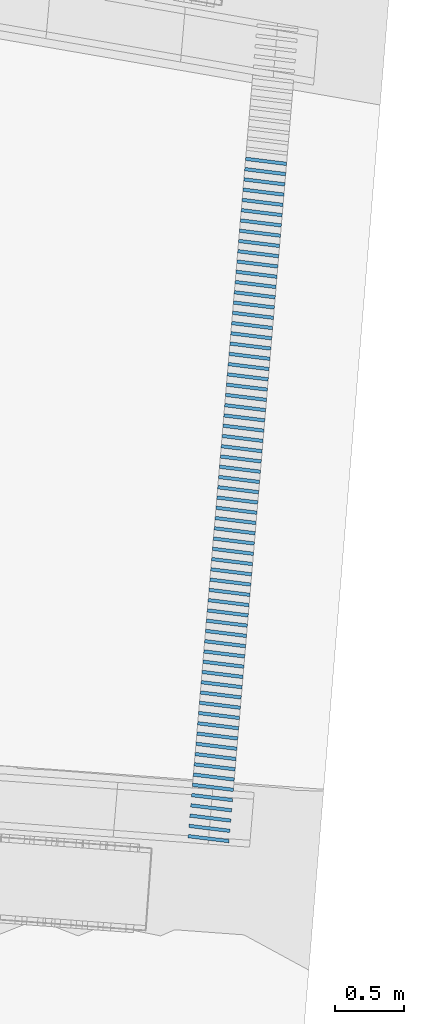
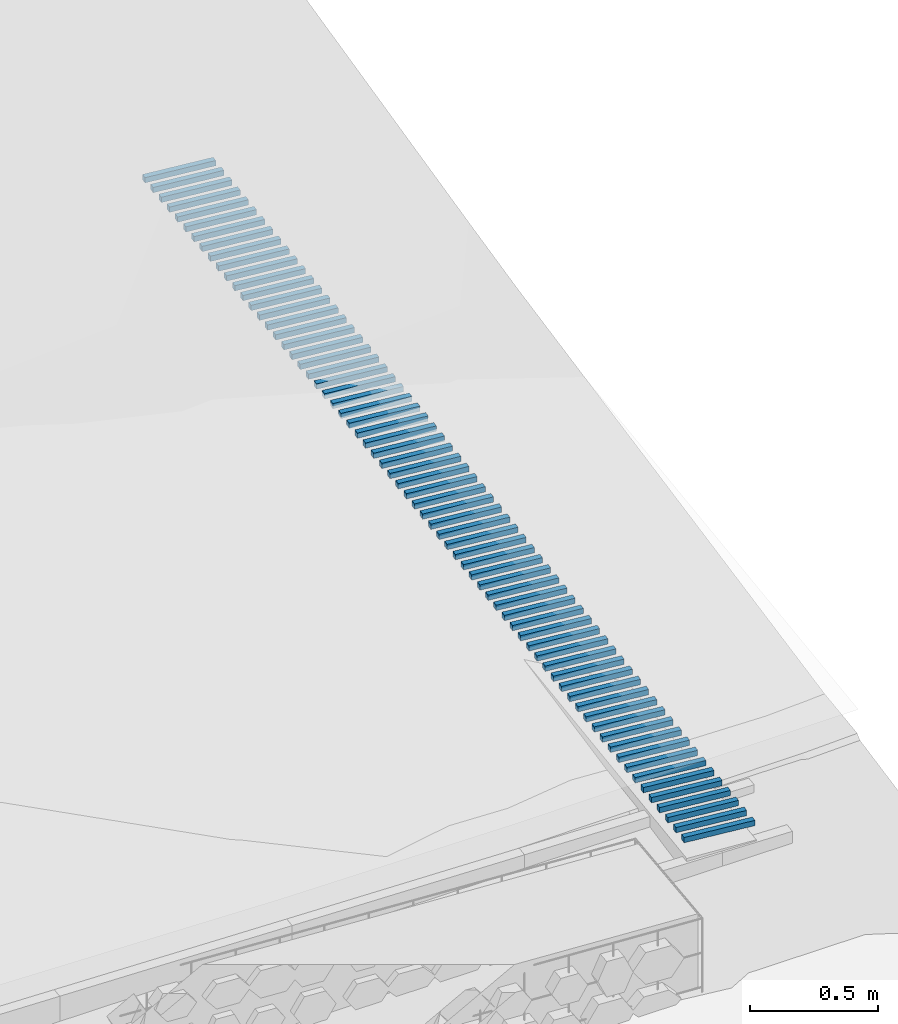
# Not in any storey, part 4 of 45: 67 members.
"""IFC4 model written with IfcOpenShell, lengths in metres."""

from ifc_helpers import new_model, si_unit, direction, frame, origin_with_axes, place, context, subcontext, project, spatial, rectangle, extrude, material, material_profile, profile_set, profile_usage, type_object, element, save


model = new_model("IFC4")

# Units and contexts
model_context = context("Model", 3, precision=1e-05, world=origin_with_axes(), true_north=direction((0.0, 1.0)))
body_context = subcontext(model_context, "Body", "Model", "MODEL_VIEW")
ifc_project = project(units=[si_unit("VOLUMEUNIT", "CUBIC_METRE"), si_unit("LENGTHUNIT", "METRE"), si_unit("AREAUNIT", "SQUARE_METRE")], contexts=[model_context])

# Site
site_placement = place(None, origin_with_axes())
site = spatial("IfcSite", under=ifc_project, at=site_placement, Name="Lares · Rua das Mercês · artigo 4771")

# Members
ifc_material = material(Name="Aço galvanizado / Stahl verzinkt", Category="steel")
ifc_material_profile = material_profile(ifc_material, rectangle(XDim=0.025, YDim=0.025))
ifc_profile_set = profile_set([ifc_material_profile], Name="R0.025")
ifc_profile_usage_1 = profile_usage(ifc_profile_set)
member_type = type_object("IfcMemberType", Name="R0.025 / galvanized", PredefinedType="NOTDEFINED", material=ifc_profile_set)
member_1_placement = place(site_placement, frame((82.2941833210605, 0.167332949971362, 16.2224827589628), z_axis=(0.992517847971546, -0.122099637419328, 0.0), x_axis=(-0.122099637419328, -0.992517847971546, 0.0)))
element("IfcMember", 1, at=member_1_placement, inside=site, type_object=member_type, material=ifc_profile_usage_1, Name="Interceção · grelha rua", context=body_context, shape_type="SweptSolid", body=[
    extrude(rectangle(XDim=0.025, YDim=0.025), origin_with_axes(), (0.0, 0.0, 1.0), 0.299999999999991),
])
ifc_profile_usage_2 = profile_usage(ifc_profile_set)
member_2_placement = place(site_placement, frame((82.3005272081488, 0.242064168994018, 16.2224827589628), z_axis=(0.992517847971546, -0.122099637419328, 0.0), x_axis=(-0.122099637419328, -0.992517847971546, 0.0)))
element("IfcMember", 2, at=member_2_placement, inside=site, type_object=member_type, material=ifc_profile_usage_2, Name="Interceção · grelha rua", context=body_context, shape_type="SweptSolid", body=[
    extrude(rectangle(XDim=0.025, YDim=0.025), origin_with_axes(), (0.0, 0.0, 1.0), 0.299999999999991),
])
ifc_profile_usage_3 = profile_usage(ifc_profile_set)
member_3_placement = place(site_placement, frame((82.306871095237, 0.31679538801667, 16.2224827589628), z_axis=(0.992517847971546, -0.122099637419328, 0.0), x_axis=(-0.122099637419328, -0.992517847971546, 0.0)))
element("IfcMember", 3, at=member_3_placement, inside=site, type_object=member_type, material=ifc_profile_usage_3, Name="Interceção · grelha rua", context=body_context, shape_type="SweptSolid", body=[
    extrude(rectangle(XDim=0.025, YDim=0.025), origin_with_axes(), (0.0, 0.0, 1.0), 0.299999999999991),
])
ifc_profile_usage_4 = profile_usage(ifc_profile_set)
member_4_placement = place(site_placement, frame((82.3132149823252, 0.391526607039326, 16.2224827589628), z_axis=(0.992517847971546, -0.122099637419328, 0.0), x_axis=(-0.122099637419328, -0.992517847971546, 0.0)))
element("IfcMember", 4, at=member_4_placement, inside=site, type_object=member_type, material=ifc_profile_usage_4, Name="Interceção · grelha rua", context=body_context, shape_type="SweptSolid", body=[
    extrude(rectangle(XDim=0.025, YDim=0.025), origin_with_axes(), (0.0, 0.0, 1.0), 0.299999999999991),
])
ifc_profile_usage_5 = profile_usage(ifc_profile_set)
member_5_placement = place(site_placement, frame((82.3195588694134, 0.466257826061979, 16.2224827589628), z_axis=(0.992517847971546, -0.122099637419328, 0.0), x_axis=(-0.122099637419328, -0.992517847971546, 0.0)))
element("IfcMember", 5, at=member_5_placement, inside=site, type_object=member_type, material=ifc_profile_usage_5, Name="Interceção · grelha rua", context=body_context, shape_type="SweptSolid", body=[
    extrude(rectangle(XDim=0.025, YDim=0.025), origin_with_axes(), (0.0, 0.0, 1.0), 0.299999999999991),
])
ifc_profile_usage_6 = profile_usage(ifc_profile_set)
member_6_placement = place(site_placement, frame((82.3259027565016, 0.540989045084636, 16.2224827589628), z_axis=(0.992517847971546, -0.122099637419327, 0.0), x_axis=(-0.122099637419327, -0.992517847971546, 0.0)))
element("IfcMember", 6, at=member_6_placement, inside=site, type_object=member_type, material=ifc_profile_usage_6, Name="Interceção · grelha rua", context=body_context, shape_type="SweptSolid", body=[
    extrude(rectangle(XDim=0.025, YDim=0.025), origin_with_axes(), (0.0, 0.0, 1.0), 0.299999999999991),
])
ifc_profile_usage_7 = profile_usage(ifc_profile_set)
member_7_placement = place(site_placement, frame((82.3322466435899, 0.615720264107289, 16.2227827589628), z_axis=(0.992517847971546, -0.122099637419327, 0.0), x_axis=(-0.122099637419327, -0.992517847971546, 0.0)))
element("IfcMember", 7, at=member_7_placement, inside=site, type_object=member_type, material=ifc_profile_usage_7, Name="Interceção · grelha rua", context=body_context, shape_type="SweptSolid", body=[
    extrude(rectangle(XDim=0.025, YDim=0.025), origin_with_axes(), (0.0, 0.0, 1.0), 0.299999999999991),
])
ifc_profile_usage_8 = profile_usage(ifc_profile_set)
member_8_placement = place(site_placement, frame((82.3385905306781, 0.690451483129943, 16.2235327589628), z_axis=(0.992517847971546, -0.122099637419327, 0.0), x_axis=(-0.122099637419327, -0.992517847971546, 0.0)))
element("IfcMember", 8, at=member_8_placement, inside=site, type_object=member_type, material=ifc_profile_usage_8, Name="Interceção · grelha rua", context=body_context, shape_type="SweptSolid", body=[
    extrude(rectangle(XDim=0.025, YDim=0.025), origin_with_axes(), (0.0, 0.0, 1.0), 0.299999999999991),
])
ifc_profile_usage_9 = profile_usage(ifc_profile_set)
member_9_placement = place(site_placement, frame((82.3449344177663, 0.765182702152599, 16.2242827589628), z_axis=(0.992517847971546, -0.122099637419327, 0.0), x_axis=(-0.122099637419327, -0.992517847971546, 0.0)))
element("IfcMember", 9, at=member_9_placement, inside=site, type_object=member_type, material=ifc_profile_usage_9, Name="Interceção · grelha rua", context=body_context, shape_type="SweptSolid", body=[
    extrude(rectangle(XDim=0.025, YDim=0.025), origin_with_axes(), (0.0, 0.0, 1.0), 0.299999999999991),
])
ifc_profile_usage_10 = profile_usage(ifc_profile_set)
member_10_placement = place(site_placement, frame((82.3512783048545, 0.839913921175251, 16.2250327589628), z_axis=(0.992517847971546, -0.122099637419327, 0.0), x_axis=(-0.122099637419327, -0.992517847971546, 0.0)))
element("IfcMember", 10, at=member_10_placement, inside=site, type_object=member_type, material=ifc_profile_usage_10, Name="Interceção · grelha rua", context=body_context, shape_type="SweptSolid", body=[
    extrude(rectangle(XDim=0.025, YDim=0.025), origin_with_axes(), (0.0, 0.0, 1.0), 0.299999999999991),
])
ifc_profile_usage_11 = profile_usage(ifc_profile_set)
member_11_placement = place(site_placement, frame((82.3576221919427, 0.914645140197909, 16.2257827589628), z_axis=(0.992517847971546, -0.122099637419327, 0.0), x_axis=(-0.122099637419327, -0.992517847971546, 0.0)))
element("IfcMember", 11, at=member_11_placement, inside=site, type_object=member_type, material=ifc_profile_usage_11, Name="Interceção · grelha rua", context=body_context, shape_type="SweptSolid", body=[
    extrude(rectangle(XDim=0.025, YDim=0.025), origin_with_axes(), (0.0, 0.0, 1.0), 0.299999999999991),
])
ifc_profile_usage_12 = profile_usage(ifc_profile_set)
member_12_placement = place(site_placement, frame((82.363966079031, 0.989376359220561, 16.2265327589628), z_axis=(0.992517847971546, -0.122099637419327, 0.0), x_axis=(-0.122099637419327, -0.992517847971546, 0.0)))
element("IfcMember", 12, at=member_12_placement, inside=site, type_object=member_type, material=ifc_profile_usage_12, Name="Interceção · grelha rua", context=body_context, shape_type="SweptSolid", body=[
    extrude(rectangle(XDim=0.025, YDim=0.025), origin_with_axes(), (0.0, 0.0, 1.0), 0.299999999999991),
])
ifc_profile_usage_13 = profile_usage(ifc_profile_set)
member_13_placement = place(site_placement, frame((82.3703099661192, 1.06410757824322, 16.2272827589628), z_axis=(0.992517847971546, -0.122099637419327, 0.0), x_axis=(-0.122099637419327, -0.992517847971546, 0.0)))
element("IfcMember", 13, at=member_13_placement, inside=site, type_object=member_type, material=ifc_profile_usage_13, Name="Interceção · grelha rua", context=body_context, shape_type="SweptSolid", body=[
    extrude(rectangle(XDim=0.025, YDim=0.025), origin_with_axes(), (0.0, 0.0, 1.0), 0.299999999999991),
])
ifc_profile_usage_14 = profile_usage(ifc_profile_set)
member_14_placement = place(site_placement, frame((82.3766538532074, 1.13883879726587, 16.2280327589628), z_axis=(0.992517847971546, -0.122099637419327, 0.0), x_axis=(-0.122099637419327, -0.992517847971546, 0.0)))
element("IfcMember", 14, at=member_14_placement, inside=site, type_object=member_type, material=ifc_profile_usage_14, Name="Interceção · grelha rua", context=body_context, shape_type="SweptSolid", body=[
    extrude(rectangle(XDim=0.025, YDim=0.025), origin_with_axes(), (0.0, 0.0, 1.0), 0.299999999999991),
])
ifc_profile_usage_15 = profile_usage(ifc_profile_set)
member_15_placement = place(site_placement, frame((82.3829977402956, 1.21357001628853, 16.2287827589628), z_axis=(0.992517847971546, -0.122099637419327, 0.0), x_axis=(-0.122099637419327, -0.992517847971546, 0.0)))
element("IfcMember", 15, at=member_15_placement, inside=site, type_object=member_type, material=ifc_profile_usage_15, Name="Interceção · grelha rua", context=body_context, shape_type="SweptSolid", body=[
    extrude(rectangle(XDim=0.025, YDim=0.025), origin_with_axes(), (0.0, 0.0, 1.0), 0.299999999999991),
])
ifc_profile_usage_16 = profile_usage(ifc_profile_set)
member_16_placement = place(site_placement, frame((82.3893416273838, 1.28830123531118, 16.2295327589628), z_axis=(0.992517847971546, -0.122099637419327, 0.0), x_axis=(-0.122099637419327, -0.992517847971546, 0.0)))
element("IfcMember", 16, at=member_16_placement, inside=site, type_object=member_type, material=ifc_profile_usage_16, Name="Interceção · grelha rua", context=body_context, shape_type="SweptSolid", body=[
    extrude(rectangle(XDim=0.025, YDim=0.025), origin_with_axes(), (0.0, 0.0, 1.0), 0.299999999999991),
])
ifc_profile_usage_17 = profile_usage(ifc_profile_set)
member_17_placement = place(site_placement, frame((82.395685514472, 1.36303245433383, 16.2302827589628), z_axis=(0.992517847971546, -0.122099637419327, 0.0), x_axis=(-0.122099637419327, -0.992517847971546, 0.0)))
element("IfcMember", 17, at=member_17_placement, inside=site, type_object=member_type, material=ifc_profile_usage_17, Name="Interceção · grelha rua", context=body_context, shape_type="SweptSolid", body=[
    extrude(rectangle(XDim=0.025, YDim=0.025), origin_with_axes(), (0.0, 0.0, 1.0), 0.299999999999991),
])
ifc_profile_usage_18 = profile_usage(ifc_profile_set)
member_18_placement = place(site_placement, frame((82.4020294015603, 1.43776367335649, 16.2310327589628), z_axis=(0.992517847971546, -0.122099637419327, 0.0), x_axis=(-0.122099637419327, -0.992517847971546, 0.0)))
element("IfcMember", 18, at=member_18_placement, inside=site, type_object=member_type, material=ifc_profile_usage_18, Name="Interceção · grelha rua", context=body_context, shape_type="SweptSolid", body=[
    extrude(rectangle(XDim=0.025, YDim=0.025), origin_with_axes(), (0.0, 0.0, 1.0), 0.299999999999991),
])
ifc_profile_usage_19 = profile_usage(ifc_profile_set)
member_19_placement = place(site_placement, frame((82.4083732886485, 1.51249489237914, 16.2317827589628), z_axis=(0.992517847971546, -0.122099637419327, 0.0), x_axis=(-0.122099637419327, -0.992517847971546, 0.0)))
element("IfcMember", 19, at=member_19_placement, inside=site, type_object=member_type, material=ifc_profile_usage_19, Name="Interceção · grelha rua", context=body_context, shape_type="SweptSolid", body=[
    extrude(rectangle(XDim=0.025, YDim=0.025), origin_with_axes(), (0.0, 0.0, 1.0), 0.299999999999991),
])
ifc_profile_usage_20 = profile_usage(ifc_profile_set)
member_20_placement = place(site_placement, frame((82.4147171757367, 1.5872261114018, 16.2325327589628), z_axis=(0.992517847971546, -0.122099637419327, 0.0), x_axis=(-0.122099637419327, -0.992517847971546, 0.0)))
element("IfcMember", 20, at=member_20_placement, inside=site, type_object=member_type, material=ifc_profile_usage_20, Name="Interceção · grelha rua", context=body_context, shape_type="SweptSolid", body=[
    extrude(rectangle(XDim=0.025, YDim=0.025), origin_with_axes(), (0.0, 0.0, 1.0), 0.299999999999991),
])
ifc_profile_usage_21 = profile_usage(ifc_profile_set)
member_21_placement = place(site_placement, frame((82.4210610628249, 1.66195733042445, 16.2332827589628), z_axis=(0.992517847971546, -0.122099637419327, 0.0), x_axis=(-0.122099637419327, -0.992517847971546, 0.0)))
element("IfcMember", 21, at=member_21_placement, inside=site, type_object=member_type, material=ifc_profile_usage_21, Name="Interceção · grelha rua", context=body_context, shape_type="SweptSolid", body=[
    extrude(rectangle(XDim=0.025, YDim=0.025), origin_with_axes(), (0.0, 0.0, 1.0), 0.299999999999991),
])
ifc_profile_usage_22 = profile_usage(ifc_profile_set)
member_22_placement = place(site_placement, frame((82.4274049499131, 1.73668854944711, 16.2340327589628), z_axis=(0.992517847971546, -0.122099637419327, 0.0), x_axis=(-0.122099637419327, -0.992517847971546, 0.0)))
element("IfcMember", 22, at=member_22_placement, inside=site, type_object=member_type, material=ifc_profile_usage_22, Name="Interceção · grelha rua", context=body_context, shape_type="SweptSolid", body=[
    extrude(rectangle(XDim=0.025, YDim=0.025), origin_with_axes(), (0.0, 0.0, 1.0), 0.299999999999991),
])
ifc_profile_usage_23 = profile_usage(ifc_profile_set)
member_23_placement = place(site_placement, frame((82.4337488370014, 1.81141976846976, 16.2347827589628), z_axis=(0.992517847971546, -0.122099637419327, 0.0), x_axis=(-0.122099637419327, -0.992517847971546, 0.0)))
element("IfcMember", 23, at=member_23_placement, inside=site, type_object=member_type, material=ifc_profile_usage_23, Name="Interceção · grelha rua", context=body_context, shape_type="SweptSolid", body=[
    extrude(rectangle(XDim=0.025, YDim=0.025), origin_with_axes(), (0.0, 0.0, 1.0), 0.299999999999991),
])
ifc_profile_usage_24 = profile_usage(ifc_profile_set)
member_24_placement = place(site_placement, frame((82.4400927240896, 1.88615098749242, 16.2355327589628), z_axis=(0.992517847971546, -0.122099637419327, 0.0), x_axis=(-0.122099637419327, -0.992517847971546, 0.0)))
element("IfcMember", 24, at=member_24_placement, inside=site, type_object=member_type, material=ifc_profile_usage_24, Name="Interceção · grelha rua", context=body_context, shape_type="SweptSolid", body=[
    extrude(rectangle(XDim=0.025, YDim=0.025), origin_with_axes(), (0.0, 0.0, 1.0), 0.299999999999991),
])
ifc_profile_usage_25 = profile_usage(ifc_profile_set)
member_25_placement = place(site_placement, frame((82.4464366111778, 1.96088220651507, 16.2362827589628), z_axis=(0.992517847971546, -0.122099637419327, 0.0), x_axis=(-0.122099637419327, -0.992517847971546, 0.0)))
element("IfcMember", 25, at=member_25_placement, inside=site, type_object=member_type, material=ifc_profile_usage_25, Name="Interceção · grelha rua", context=body_context, shape_type="SweptSolid", body=[
    extrude(rectangle(XDim=0.025, YDim=0.025), origin_with_axes(), (0.0, 0.0, 1.0), 0.299999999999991),
])
ifc_profile_usage_26 = profile_usage(ifc_profile_set)
member_26_placement = place(site_placement, frame((82.452780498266, 2.03561342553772, 16.2370327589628), z_axis=(0.992517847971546, -0.122099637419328, 0.0), x_axis=(-0.122099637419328, -0.992517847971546, 0.0)))
element("IfcMember", 26, at=member_26_placement, inside=site, type_object=member_type, material=ifc_profile_usage_26, Name="Interceção · grelha rua", context=body_context, shape_type="SweptSolid", body=[
    extrude(rectangle(XDim=0.025, YDim=0.025), origin_with_axes(), (0.0, 0.0, 1.0), 0.299999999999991),
])
ifc_profile_usage_27 = profile_usage(ifc_profile_set)
member_27_placement = place(site_placement, frame((82.4591243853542, 2.11034464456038, 16.2377827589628), z_axis=(0.992517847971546, -0.122099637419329, 0.0), x_axis=(-0.122099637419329, -0.992517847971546, 0.0)))
element("IfcMember", 27, at=member_27_placement, inside=site, type_object=member_type, material=ifc_profile_usage_27, Name="Interceção · grelha rua", context=body_context, shape_type="SweptSolid", body=[
    extrude(rectangle(XDim=0.025, YDim=0.025), origin_with_axes(), (0.0, 0.0, 1.0), 0.299999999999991),
])
ifc_profile_usage_28 = profile_usage(ifc_profile_set)
member_28_placement = place(site_placement, frame((82.4654682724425, 2.18507586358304, 16.2385327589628), z_axis=(0.992517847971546, -0.122099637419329, 0.0), x_axis=(-0.122099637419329, -0.992517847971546, 0.0)))
element("IfcMember", 28, at=member_28_placement, inside=site, type_object=member_type, material=ifc_profile_usage_28, Name="Interceção · grelha rua", context=body_context, shape_type="SweptSolid", body=[
    extrude(rectangle(XDim=0.025, YDim=0.025), origin_with_axes(), (0.0, 0.0, 1.0), 0.299999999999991),
])
ifc_profile_usage_29 = profile_usage(ifc_profile_set)
member_29_placement = place(site_placement, frame((82.4718121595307, 2.25980708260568, 16.2392827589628), z_axis=(0.992517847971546, -0.122099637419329, 0.0), x_axis=(-0.122099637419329, -0.992517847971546, 0.0)))
element("IfcMember", 29, at=member_29_placement, inside=site, type_object=member_type, material=ifc_profile_usage_29, Name="Interceção · grelha rua", context=body_context, shape_type="SweptSolid", body=[
    extrude(rectangle(XDim=0.025, YDim=0.025), origin_with_axes(), (0.0, 0.0, 1.0), 0.299999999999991),
])
ifc_profile_usage_30 = profile_usage(ifc_profile_set)
member_30_placement = place(site_placement, frame((82.4781560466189, 2.33453830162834, 16.2400327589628), z_axis=(0.992517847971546, -0.122099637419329, 0.0), x_axis=(-0.122099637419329, -0.992517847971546, 0.0)))
element("IfcMember", 30, at=member_30_placement, inside=site, type_object=member_type, material=ifc_profile_usage_30, Name="Interceção · grelha rua", context=body_context, shape_type="SweptSolid", body=[
    extrude(rectangle(XDim=0.025, YDim=0.025), origin_with_axes(), (0.0, 0.0, 1.0), 0.299999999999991),
])
ifc_profile_usage_31 = profile_usage(ifc_profile_set)
member_31_placement = place(site_placement, frame((82.4844999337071, 2.409269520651, 16.2407827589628), z_axis=(0.992517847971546, -0.122099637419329, 0.0), x_axis=(-0.122099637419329, -0.992517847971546, 0.0)))
element("IfcMember", 31, at=member_31_placement, inside=site, type_object=member_type, material=ifc_profile_usage_31, Name="Interceção · grelha rua", context=body_context, shape_type="SweptSolid", body=[
    extrude(rectangle(XDim=0.025, YDim=0.025), origin_with_axes(), (0.0, 0.0, 1.0), 0.299999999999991),
])
ifc_profile_usage_32 = profile_usage(ifc_profile_set)
member_32_placement = place(site_placement, frame((82.4908438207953, 2.48400073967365, 16.2415327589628), z_axis=(0.992517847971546, -0.122099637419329, 0.0), x_axis=(-0.122099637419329, -0.992517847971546, 0.0)))
element("IfcMember", 32, at=member_32_placement, inside=site, type_object=member_type, material=ifc_profile_usage_32, Name="Interceção · grelha rua", context=body_context, shape_type="SweptSolid", body=[
    extrude(rectangle(XDim=0.025, YDim=0.025), origin_with_axes(), (0.0, 0.0, 1.0), 0.299999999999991),
])
ifc_profile_usage_33 = profile_usage(ifc_profile_set)
member_33_placement = place(site_placement, frame((82.4971877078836, 2.55873195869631, 16.2422827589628), z_axis=(0.992517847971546, -0.122099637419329, 0.0), x_axis=(-0.122099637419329, -0.992517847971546, 0.0)))
element("IfcMember", 33, at=member_33_placement, inside=site, type_object=member_type, material=ifc_profile_usage_33, Name="Interceção · grelha rua", context=body_context, shape_type="SweptSolid", body=[
    extrude(rectangle(XDim=0.025, YDim=0.025), origin_with_axes(), (0.0, 0.0, 1.0), 0.299999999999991),
])
ifc_profile_usage_34 = profile_usage(ifc_profile_set)
member_34_placement = place(site_placement, frame((82.5035315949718, 2.63346317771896, 16.2430327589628), z_axis=(0.992517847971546, -0.122099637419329, 0.0), x_axis=(-0.122099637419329, -0.992517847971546, 0.0)))
element("IfcMember", 34, at=member_34_placement, inside=site, type_object=member_type, material=ifc_profile_usage_34, Name="Interceção · grelha rua", context=body_context, shape_type="SweptSolid", body=[
    extrude(rectangle(XDim=0.025, YDim=0.025), origin_with_axes(), (0.0, 0.0, 1.0), 0.299999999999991),
])
ifc_profile_usage_35 = profile_usage(ifc_profile_set)
member_35_placement = place(site_placement, frame((82.50987548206, 2.70819439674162, 16.2437827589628), z_axis=(0.992517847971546, -0.122099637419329, 0.0), x_axis=(-0.122099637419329, -0.992517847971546, 0.0)))
element("IfcMember", 35, at=member_35_placement, inside=site, type_object=member_type, material=ifc_profile_usage_35, Name="Interceção · grelha rua", context=body_context, shape_type="SweptSolid", body=[
    extrude(rectangle(XDim=0.025, YDim=0.025), origin_with_axes(), (0.0, 0.0, 1.0), 0.299999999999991),
])
ifc_profile_usage_36 = profile_usage(ifc_profile_set)
member_36_placement = place(site_placement, frame((82.5162193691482, 2.78292561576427, 16.2445327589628), z_axis=(0.992517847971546, -0.122099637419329, 0.0), x_axis=(-0.122099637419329, -0.992517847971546, 0.0)))
element("IfcMember", 36, at=member_36_placement, inside=site, type_object=member_type, material=ifc_profile_usage_36, Name="Interceção · grelha rua", context=body_context, shape_type="SweptSolid", body=[
    extrude(rectangle(XDim=0.025, YDim=0.025), origin_with_axes(), (0.0, 0.0, 1.0), 0.299999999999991),
])
ifc_profile_usage_37 = profile_usage(ifc_profile_set)
member_37_placement = place(site_placement, frame((82.5225632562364, 2.85765683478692, 16.2452827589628), z_axis=(0.992517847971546, -0.122099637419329, 0.0), x_axis=(-0.122099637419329, -0.992517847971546, 0.0)))
element("IfcMember", 37, at=member_37_placement, inside=site, type_object=member_type, material=ifc_profile_usage_37, Name="Interceção · grelha rua", context=body_context, shape_type="SweptSolid", body=[
    extrude(rectangle(XDim=0.025, YDim=0.025), origin_with_axes(), (0.0, 0.0, 1.0), 0.299999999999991),
])
ifc_profile_usage_38 = profile_usage(ifc_profile_set)
member_38_placement = place(site_placement, frame((82.5289071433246, 2.93238805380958, 16.2460327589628), z_axis=(0.992517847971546, -0.122099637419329, 0.0), x_axis=(-0.122099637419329, -0.992517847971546, 0.0)))
element("IfcMember", 38, at=member_38_placement, inside=site, type_object=member_type, material=ifc_profile_usage_38, Name="Interceção · grelha rua", context=body_context, shape_type="SweptSolid", body=[
    extrude(rectangle(XDim=0.025, YDim=0.025), origin_with_axes(), (0.0, 0.0, 1.0), 0.299999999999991),
])
ifc_profile_usage_39 = profile_usage(ifc_profile_set)
member_39_placement = place(site_placement, frame((82.5352510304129, 3.00711927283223, 16.2467827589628), z_axis=(0.992517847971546, -0.122099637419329, 0.0), x_axis=(-0.122099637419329, -0.992517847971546, 0.0)))
element("IfcMember", 39, at=member_39_placement, inside=site, type_object=member_type, material=ifc_profile_usage_39, Name="Interceção · grelha rua", context=body_context, shape_type="SweptSolid", body=[
    extrude(rectangle(XDim=0.025, YDim=0.025), origin_with_axes(), (0.0, 0.0, 1.0), 0.299999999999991),
])
ifc_profile_usage_40 = profile_usage(ifc_profile_set)
member_40_placement = place(site_placement, frame((82.5415949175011, 3.08185049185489, 16.2475327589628), z_axis=(0.992517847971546, -0.122099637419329, 0.0), x_axis=(-0.122099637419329, -0.992517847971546, 0.0)))
element("IfcMember", 40, at=member_40_placement, inside=site, type_object=member_type, material=ifc_profile_usage_40, Name="Interceção · grelha rua", context=body_context, shape_type="SweptSolid", body=[
    extrude(rectangle(XDim=0.025, YDim=0.025), origin_with_axes(), (0.0, 0.0, 1.0), 0.299999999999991),
])
ifc_profile_usage_41 = profile_usage(ifc_profile_set)
member_41_placement = place(site_placement, frame((82.5479388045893, 3.15658171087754, 16.2474680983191), z_axis=(0.992517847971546, -0.122099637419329, 0.0), x_axis=(-0.122099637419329, -0.992517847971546, 0.0)))
element("IfcMember", 41, at=member_41_placement, inside=site, type_object=member_type, material=ifc_profile_usage_41, Name="Interceção · grelha rua", context=body_context, shape_type="SweptSolid", body=[
    extrude(rectangle(XDim=0.025, YDim=0.025), origin_with_axes(), (0.0, 0.0, 1.0), 0.299999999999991),
])
ifc_profile_usage_42 = profile_usage(ifc_profile_set)
member_42_placement = place(site_placement, frame((82.5542826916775, 3.2313129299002, 16.2467180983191), z_axis=(0.992517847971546, -0.122099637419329, 0.0), x_axis=(-0.122099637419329, -0.992517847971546, 0.0)))
element("IfcMember", 42, at=member_42_placement, inside=site, type_object=member_type, material=ifc_profile_usage_42, Name="Interceção · grelha rua", context=body_context, shape_type="SweptSolid", body=[
    extrude(rectangle(XDim=0.025, YDim=0.025), origin_with_axes(), (0.0, 0.0, 1.0), 0.299999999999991),
])
ifc_profile_usage_43 = profile_usage(ifc_profile_set)
member_43_placement = place(site_placement, frame((82.5606265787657, 3.30604414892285, 16.2459680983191), z_axis=(0.992517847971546, -0.122099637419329, 0.0), x_axis=(-0.122099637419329, -0.992517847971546, 0.0)))
element("IfcMember", 43, at=member_43_placement, inside=site, type_object=member_type, material=ifc_profile_usage_43, Name="Interceção · grelha rua", context=body_context, shape_type="SweptSolid", body=[
    extrude(rectangle(XDim=0.025, YDim=0.025), origin_with_axes(), (0.0, 0.0, 1.0), 0.299999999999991),
])
ifc_profile_usage_44 = profile_usage(ifc_profile_set)
member_44_placement = place(site_placement, frame((82.566970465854, 3.38077536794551, 16.2452180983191), z_axis=(0.992517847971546, -0.122099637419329, 0.0), x_axis=(-0.122099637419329, -0.992517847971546, 0.0)))
element("IfcMember", 44, at=member_44_placement, inside=site, type_object=member_type, material=ifc_profile_usage_44, Name="Interceção · grelha rua", context=body_context, shape_type="SweptSolid", body=[
    extrude(rectangle(XDim=0.025, YDim=0.025), origin_with_axes(), (0.0, 0.0, 1.0), 0.299999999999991),
])
ifc_profile_usage_45 = profile_usage(ifc_profile_set)
member_45_placement = place(site_placement, frame((82.5733143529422, 3.45550658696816, 16.2444680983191), z_axis=(0.992517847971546, -0.122099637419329, 0.0), x_axis=(-0.122099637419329, -0.992517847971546, 0.0)))
element("IfcMember", 45, at=member_45_placement, inside=site, type_object=member_type, material=ifc_profile_usage_45, Name="Interceção · grelha rua", context=body_context, shape_type="SweptSolid", body=[
    extrude(rectangle(XDim=0.025, YDim=0.025), origin_with_axes(), (0.0, 0.0, 1.0), 0.299999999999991),
])
ifc_profile_usage_46 = profile_usage(ifc_profile_set)
member_46_placement = place(site_placement, frame((82.5796582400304, 3.53023780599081, 16.2437180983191), z_axis=(0.992517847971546, -0.122099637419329, 0.0), x_axis=(-0.122099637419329, -0.992517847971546, 0.0)))
element("IfcMember", 46, at=member_46_placement, inside=site, type_object=member_type, material=ifc_profile_usage_46, Name="Interceção · grelha rua", context=body_context, shape_type="SweptSolid", body=[
    extrude(rectangle(XDim=0.025, YDim=0.025), origin_with_axes(), (0.0, 0.0, 1.0), 0.299999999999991),
])
ifc_profile_usage_47 = profile_usage(ifc_profile_set)
member_47_placement = place(site_placement, frame((82.5860021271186, 3.60496902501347, 16.2429680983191), z_axis=(0.992517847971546, -0.122099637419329, 0.0), x_axis=(-0.122099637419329, -0.992517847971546, 0.0)))
element("IfcMember", 47, at=member_47_placement, inside=site, type_object=member_type, material=ifc_profile_usage_47, Name="Interceção · grelha rua", context=body_context, shape_type="SweptSolid", body=[
    extrude(rectangle(XDim=0.025, YDim=0.025), origin_with_axes(), (0.0, 0.0, 1.0), 0.299999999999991),
])
ifc_profile_usage_48 = profile_usage(ifc_profile_set)
member_48_placement = place(site_placement, frame((82.5923460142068, 3.67970024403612, 16.2422180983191), z_axis=(0.992517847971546, -0.122099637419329, 0.0), x_axis=(-0.122099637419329, -0.992517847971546, 0.0)))
element("IfcMember", 48, at=member_48_placement, inside=site, type_object=member_type, material=ifc_profile_usage_48, Name="Interceção · grelha rua", context=body_context, shape_type="SweptSolid", body=[
    extrude(rectangle(XDim=0.025, YDim=0.025), origin_with_axes(), (0.0, 0.0, 1.0), 0.299999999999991),
])
ifc_profile_usage_49 = profile_usage(ifc_profile_set)
member_49_placement = place(site_placement, frame((82.5986899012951, 3.75443146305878, 16.2414680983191), z_axis=(0.992517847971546, -0.122099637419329, 0.0), x_axis=(-0.122099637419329, -0.992517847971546, 0.0)))
element("IfcMember", 49, at=member_49_placement, inside=site, type_object=member_type, material=ifc_profile_usage_49, Name="Interceção · grelha rua", context=body_context, shape_type="SweptSolid", body=[
    extrude(rectangle(XDim=0.025, YDim=0.025), origin_with_axes(), (0.0, 0.0, 1.0), 0.299999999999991),
])
ifc_profile_usage_50 = profile_usage(ifc_profile_set)
member_50_placement = place(site_placement, frame((82.6050337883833, 3.82916268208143, 16.2407180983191), z_axis=(0.992517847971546, -0.122099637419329, 0.0), x_axis=(-0.122099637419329, -0.992517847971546, 0.0)))
element("IfcMember", 50, at=member_50_placement, inside=site, type_object=member_type, material=ifc_profile_usage_50, Name="Interceção · grelha rua", context=body_context, shape_type="SweptSolid", body=[
    extrude(rectangle(XDim=0.025, YDim=0.025), origin_with_axes(), (0.0, 0.0, 1.0), 0.299999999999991),
])
ifc_profile_usage_51 = profile_usage(ifc_profile_set)
member_51_placement = place(site_placement, frame((82.6113776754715, 3.90389390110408, 16.2399680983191), z_axis=(0.992517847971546, -0.122099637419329, 0.0), x_axis=(-0.122099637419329, -0.992517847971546, 0.0)))
element("IfcMember", 51, at=member_51_placement, inside=site, type_object=member_type, material=ifc_profile_usage_51, Name="Interceção · grelha rua", context=body_context, shape_type="SweptSolid", body=[
    extrude(rectangle(XDim=0.025, YDim=0.025), origin_with_axes(), (0.0, 0.0, 1.0), 0.299999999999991),
])
ifc_profile_usage_52 = profile_usage(ifc_profile_set)
member_52_placement = place(site_placement, frame((82.6177215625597, 3.97862512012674, 16.2392180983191), z_axis=(0.992517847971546, -0.122099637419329, 0.0), x_axis=(-0.122099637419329, -0.992517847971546, 0.0)))
element("IfcMember", 52, at=member_52_placement, inside=site, type_object=member_type, material=ifc_profile_usage_52, Name="Interceção · grelha rua", context=body_context, shape_type="SweptSolid", body=[
    extrude(rectangle(XDim=0.025, YDim=0.025), origin_with_axes(), (0.0, 0.0, 1.0), 0.299999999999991),
])
ifc_profile_usage_53 = profile_usage(ifc_profile_set)
member_53_placement = place(site_placement, frame((82.624065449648, 4.05335633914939, 16.2384680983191), z_axis=(0.992517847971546, -0.122099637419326, 0.0), x_axis=(-0.122099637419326, -0.992517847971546, 0.0)))
element("IfcMember", 53, at=member_53_placement, inside=site, type_object=member_type, material=ifc_profile_usage_53, Name="Interceção · grelha rua", context=body_context, shape_type="SweptSolid", body=[
    extrude(rectangle(XDim=0.025, YDim=0.025), origin_with_axes(), (0.0, 0.0, 1.0), 0.299999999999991),
])
ifc_profile_usage_54 = profile_usage(ifc_profile_set)
member_54_placement = place(site_placement, frame((82.6304093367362, 4.12808755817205, 16.2377180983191), z_axis=(0.992517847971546, -0.122099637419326, 0.0), x_axis=(-0.122099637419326, -0.992517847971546, 0.0)))
element("IfcMember", 54, at=member_54_placement, inside=site, type_object=member_type, material=ifc_profile_usage_54, Name="Interceção · grelha rua", context=body_context, shape_type="SweptSolid", body=[
    extrude(rectangle(XDim=0.025, YDim=0.025), origin_with_axes(), (0.0, 0.0, 1.0), 0.299999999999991),
])
ifc_profile_usage_55 = profile_usage(ifc_profile_set)
member_55_placement = place(site_placement, frame((82.6367532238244, 4.2028187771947, 16.2369680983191), z_axis=(0.992517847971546, -0.122099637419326, 0.0), x_axis=(-0.122099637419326, -0.992517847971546, 0.0)))
element("IfcMember", 55, at=member_55_placement, inside=site, type_object=member_type, material=ifc_profile_usage_55, Name="Interceção · grelha rua", context=body_context, shape_type="SweptSolid", body=[
    extrude(rectangle(XDim=0.025, YDim=0.025), origin_with_axes(), (0.0, 0.0, 1.0), 0.299999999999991),
])
ifc_profile_usage_56 = profile_usage(ifc_profile_set)
member_56_placement = place(site_placement, frame((82.6430971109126, 4.27754999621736, 16.2362180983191), z_axis=(0.992517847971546, -0.122099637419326, 0.0), x_axis=(-0.122099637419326, -0.992517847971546, 0.0)))
element("IfcMember", 56, at=member_56_placement, inside=site, type_object=member_type, material=ifc_profile_usage_56, Name="Interceção · grelha rua", context=body_context, shape_type="SweptSolid", body=[
    extrude(rectangle(XDim=0.025, YDim=0.025), origin_with_axes(), (0.0, 0.0, 1.0), 0.299999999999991),
])
ifc_profile_usage_57 = profile_usage(ifc_profile_set)
member_57_placement = place(site_placement, frame((82.6494409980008, 4.35228121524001, 16.2354680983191), z_axis=(0.992517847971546, -0.122099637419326, 0.0), x_axis=(-0.122099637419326, -0.992517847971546, 0.0)))
element("IfcMember", 57, at=member_57_placement, inside=site, type_object=member_type, material=ifc_profile_usage_57, Name="Interceção · grelha rua", context=body_context, shape_type="SweptSolid", body=[
    extrude(rectangle(XDim=0.025, YDim=0.025), origin_with_axes(), (0.0, 0.0, 1.0), 0.299999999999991),
])
ifc_profile_usage_58 = profile_usage(ifc_profile_set)
member_58_placement = place(site_placement, frame((82.655784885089, 4.42701243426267, 16.2347180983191), z_axis=(0.992517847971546, -0.122099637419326, 0.0), x_axis=(-0.122099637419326, -0.992517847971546, 0.0)))
element("IfcMember", 58, at=member_58_placement, inside=site, type_object=member_type, material=ifc_profile_usage_58, Name="Interceção · grelha rua", context=body_context, shape_type="SweptSolid", body=[
    extrude(rectangle(XDim=0.025, YDim=0.025), origin_with_axes(), (0.0, 0.0, 1.0), 0.299999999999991),
])
ifc_profile_usage_59 = profile_usage(ifc_profile_set)
member_59_placement = place(site_placement, frame((82.6621287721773, 4.50174365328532, 16.2339680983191), z_axis=(0.992517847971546, -0.122099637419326, 0.0), x_axis=(-0.122099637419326, -0.992517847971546, 0.0)))
element("IfcMember", 59, at=member_59_placement, inside=site, type_object=member_type, material=ifc_profile_usage_59, Name="Interceção · grelha rua", context=body_context, shape_type="SweptSolid", body=[
    extrude(rectangle(XDim=0.025, YDim=0.025), origin_with_axes(), (0.0, 0.0, 1.0), 0.299999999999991),
])
ifc_profile_usage_60 = profile_usage(ifc_profile_set)
member_60_placement = place(site_placement, frame((82.6684726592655, 4.57647487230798, 16.2332180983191), z_axis=(0.992517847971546, -0.122099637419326, 0.0), x_axis=(-0.122099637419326, -0.992517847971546, 0.0)))
element("IfcMember", 60, at=member_60_placement, inside=site, type_object=member_type, material=ifc_profile_usage_60, Name="Interceção · grelha rua", context=body_context, shape_type="SweptSolid", body=[
    extrude(rectangle(XDim=0.025, YDim=0.025), origin_with_axes(), (0.0, 0.0, 1.0), 0.299999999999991),
])
ifc_profile_usage_61 = profile_usage(ifc_profile_set)
member_61_placement = place(site_placement, frame((82.6748165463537, 4.65120609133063, 16.2324680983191), z_axis=(0.992517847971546, -0.122099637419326, 0.0), x_axis=(-0.122099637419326, -0.992517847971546, 0.0)))
element("IfcMember", 61, at=member_61_placement, inside=site, type_object=member_type, material=ifc_profile_usage_61, Name="Interceção · grelha rua", context=body_context, shape_type="SweptSolid", body=[
    extrude(rectangle(XDim=0.025, YDim=0.025), origin_with_axes(), (0.0, 0.0, 1.0), 0.299999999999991),
])
ifc_profile_usage_62 = profile_usage(ifc_profile_set)
member_62_placement = place(site_placement, frame((82.6811604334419, 4.72593731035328, 16.2317180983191), z_axis=(0.992517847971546, -0.122099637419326, 0.0), x_axis=(-0.122099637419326, -0.992517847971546, 0.0)))
element("IfcMember", 62, at=member_62_placement, inside=site, type_object=member_type, material=ifc_profile_usage_62, Name="Interceção · grelha rua", context=body_context, shape_type="SweptSolid", body=[
    extrude(rectangle(XDim=0.025, YDim=0.025), origin_with_axes(), (0.0, 0.0, 1.0), 0.299999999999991),
])
ifc_profile_usage_63 = profile_usage(ifc_profile_set)
member_63_placement = place(site_placement, frame((82.6875043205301, 4.80066852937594, 16.2309680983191), z_axis=(0.992517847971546, -0.122099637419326, 0.0), x_axis=(-0.122099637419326, -0.992517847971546, 0.0)))
element("IfcMember", 63, at=member_63_placement, inside=site, type_object=member_type, material=ifc_profile_usage_63, Name="Interceção · grelha rua", context=body_context, shape_type="SweptSolid", body=[
    extrude(rectangle(XDim=0.025, YDim=0.025), origin_with_axes(), (0.0, 0.0, 1.0), 0.299999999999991),
])
ifc_profile_usage_64 = profile_usage(ifc_profile_set)
member_64_placement = place(site_placement, frame((82.6938482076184, 4.87539974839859, 16.2302180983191), z_axis=(0.992517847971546, -0.122099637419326, 0.0), x_axis=(-0.122099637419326, -0.992517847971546, 0.0)))
element("IfcMember", 64, at=member_64_placement, inside=site, type_object=member_type, material=ifc_profile_usage_64, Name="Interceção · grelha rua", context=body_context, shape_type="SweptSolid", body=[
    extrude(rectangle(XDim=0.025, YDim=0.025), origin_with_axes(), (0.0, 0.0, 1.0), 0.299999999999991),
])
ifc_profile_usage_65 = profile_usage(ifc_profile_set)
member_65_placement = place(site_placement, frame((82.7001920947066, 4.95013096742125, 16.2294680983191), z_axis=(0.992517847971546, -0.122099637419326, 0.0), x_axis=(-0.122099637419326, -0.992517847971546, 0.0)))
element("IfcMember", 65, at=member_65_placement, inside=site, type_object=member_type, material=ifc_profile_usage_65, Name="Interceção · grelha rua", context=body_context, shape_type="SweptSolid", body=[
    extrude(rectangle(XDim=0.025, YDim=0.025), origin_with_axes(), (0.0, 0.0, 1.0), 0.299999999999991),
])
ifc_profile_usage_66 = profile_usage(ifc_profile_set)
member_66_placement = place(site_placement, frame((82.7065359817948, 5.0248621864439, 16.2287180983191), z_axis=(0.992517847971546, -0.122099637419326, 0.0), x_axis=(-0.122099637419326, -0.992517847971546, 0.0)))
element("IfcMember", 66, at=member_66_placement, inside=site, type_object=member_type, material=ifc_profile_usage_66, Name="Interceção · grelha rua", context=body_context, shape_type="SweptSolid", body=[
    extrude(rectangle(XDim=0.025, YDim=0.025), origin_with_axes(), (0.0, 0.0, 1.0), 0.299999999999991),
])
ifc_profile_usage_67 = profile_usage(ifc_profile_set)
member_67_placement = place(site_placement, frame((82.712879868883, 5.09959340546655, 16.2279680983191), z_axis=(0.992517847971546, -0.122099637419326, 0.0), x_axis=(-0.122099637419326, -0.992517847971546, 0.0)))
element("IfcMember", 67, at=member_67_placement, inside=site, type_object=member_type, material=ifc_profile_usage_67, Name="Interceção · grelha rua", context=body_context, shape_type="SweptSolid", body=[
    extrude(rectangle(XDim=0.025, YDim=0.025), origin_with_axes(), (0.0, 0.0, 1.0), 0.299999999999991),
])

save(model, "model.ifc")
